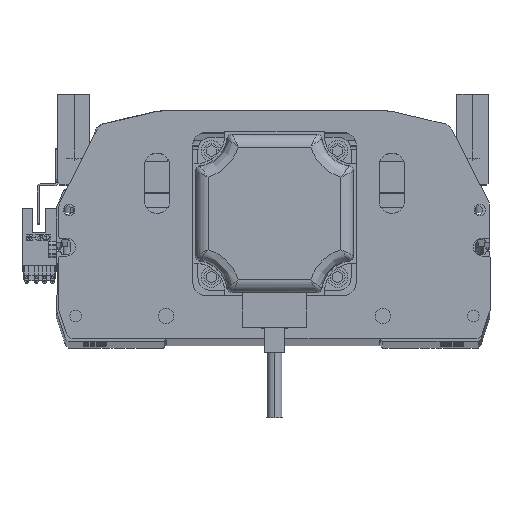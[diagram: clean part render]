
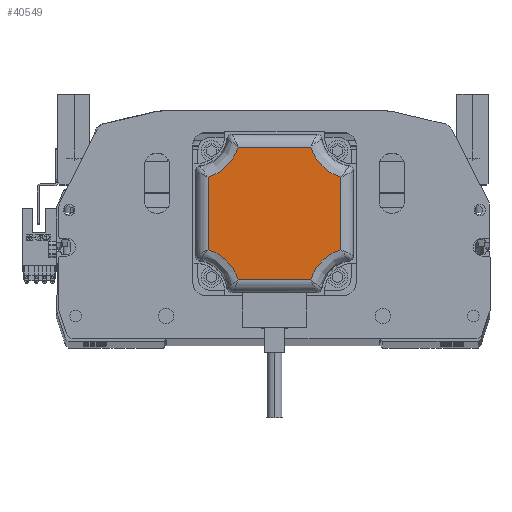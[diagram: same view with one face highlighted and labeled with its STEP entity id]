
A CAD part, top view. The second image highlights one B-rep face of the part: STEP entity #40549.
In plain terms, the highlighted planar face has unit normal (0, 0, 1) as drawn and (0, 0, -1) by its records, which use the part's own axes.
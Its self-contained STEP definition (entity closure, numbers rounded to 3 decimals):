
#861 = ORIENTED_EDGE ( 'NONE', *, *, #39830, .F. ) ;
#1659 = ORIENTED_EDGE ( 'NONE', *, *, #31790, .F. ) ;
#1771 = ORIENTED_EDGE ( 'NONE', *, *, #23347, .F. ) ;
#2437 = CARTESIAN_POINT ( 'NONE',  ( -15.953, -20.219, -116.5 ) ) ;
#4093 = FACE_OUTER_BOUND ( 'NONE', #6904, .T. ) ;
#4113 = VERTEX_POINT ( 'NONE', #30465 ) ;
#4664 = DIRECTION ( 'NONE',  ( 1., 0., 0. ) ) ;
#5213 = VERTEX_POINT ( 'NONE', #41778 ) ;
#5778 = AXIS2_PLACEMENT_3D ( 'NONE', #9007, #12671, #4664 ) ;
#6098 = CARTESIAN_POINT ( 'NONE',  ( -14.229, -26., -116.5 ) ) ;
#6428 = CARTESIAN_POINT ( 'NONE',  ( -14.229, -26., -116.5 ) ) ;
#6546 = VECTOR ( 'NONE', #40997, 1000. ) ;
#6773 = VERTEX_POINT ( 'NONE', #13209 ) ;
#6904 = EDGE_LOOP ( 'NONE', ( #49708, #14206, #22032, #38868, #1771, #861, #47578, #1659 ) ) ;
#7931 = CARTESIAN_POINT ( 'NONE',  ( 14.229, 26., -116.5 ) ) ;
#9007 = CARTESIAN_POINT ( 'NONE',  ( 0., 0., -116.5 ) ) ;
#9098 = VERTEX_POINT ( 'NONE', #16698 ) ;
#10259 = EDGE_CURVE ( 'NONE', #45467, #12916, #37691, .T. ) ;
#10601 = DIRECTION ( 'NONE',  ( 0., 1., 0. ) ) ;
#11247 = EDGE_CURVE ( 'NONE', #4113, #6773, #28122, .T. ) ;
#12671 = DIRECTION ( 'NONE',  ( 0., 0., 1. ) ) ;
#12916 = VERTEX_POINT ( 'NONE', #6098 ) ;
#13209 = CARTESIAN_POINT ( 'NONE',  ( -14.229, 26., -116.5 ) ) ;
#13278 = EDGE_CURVE ( 'NONE', #9098, #4113, #40917, .T. ) ;
#14206 = ORIENTED_EDGE ( 'NONE', *, *, #11247, .F. ) ;
#16404 = CARTESIAN_POINT ( 'NONE',  ( -15.953, 20.219, -116.5 ) ) ;
#16457 = CARTESIAN_POINT ( 'NONE',  ( 26., -14.229, -116.5 ) ) ;
#16698 = CARTESIAN_POINT ( 'NONE',  ( 26., 14.229, -116.5 ) ) ;
#16789 = CARTESIAN_POINT ( 'NONE',  ( -26., 15.5, -116.5 ) ) ;
#16840 = PLANE ( 'NONE',  #5778 ) ;
#17136 = DIRECTION ( 'NONE',  ( 0., -1., 0. ) ) ;
#19251 = CARTESIAN_POINT ( 'NONE',  ( 26., 14.229, -116.5 ) ) ;
#20530 = LINE ( 'NONE', #16789, #36691 ) ;
#20711 = VERTEX_POINT ( 'NONE', #43721 ) ;
#20735 = CARTESIAN_POINT ( 'NONE',  ( -26., 14.229, -116.5 ) ) ;
#22032 = ORIENTED_EDGE ( 'NONE', *, *, #13278, .F. ) ;
#23347 = EDGE_CURVE ( 'NONE', #5213, #51034, #40160, .T. ) ;
#24249 = CARTESIAN_POINT ( 'NONE',  ( 15.953, 20.219, -116.5 ) ) ;
#24419 = CARTESIAN_POINT ( 'NONE',  ( 15.953, -20.219, -116.5 ) ) ;
#27523 = VECTOR ( 'NONE', #39152, 1000. ) ;
#27928 =( BOUNDED_CURVE ( )  B_SPLINE_CURVE ( 3, ( #44748, #16404, #32534, #20735 ),
 .UNSPECIFIED., .F., .T. ) 
 B_SPLINE_CURVE_WITH_KNOTS ( ( 4, 4 ),
 ( 0., 1. ),
 .UNSPECIFIED. ) 
 CURVE ( )  GEOMETRIC_REPRESENTATION_ITEM ( )  RATIONAL_B_SPLINE_CURVE ( ( 1., 0.92, 0.92, 1. ) ) 
 REPRESENTATION_ITEM ( '' )  );
#28057 = CARTESIAN_POINT ( 'NONE',  ( -26., -14.229, -116.5 ) ) ;
#28122 = LINE ( 'NONE', #51208, #27523 ) ;
#28300 = LINE ( 'NONE', #28963, #6546 ) ;
#28963 = CARTESIAN_POINT ( 'NONE',  ( -15.5, -26., -116.5 ) ) ;
#30097 = CARTESIAN_POINT ( 'NONE',  ( 26., -15.5, -116.5 ) ) ;
#30465 = CARTESIAN_POINT ( 'NONE',  ( 14.229, 26., -116.5 ) ) ;
#31066 = CARTESIAN_POINT ( 'NONE',  ( 20.219, 15.953, -116.5 ) ) ;
#31092 = LINE ( 'NONE', #30097, #49204 ) ;
#31790 = EDGE_CURVE ( 'NONE', #20711, #45467, #20530, .T. ) ;
#32145 = CARTESIAN_POINT ( 'NONE',  ( 26., -14.229, -116.5 ) ) ;
#32534 = CARTESIAN_POINT ( 'NONE',  ( -20.219, 15.953, -116.5 ) ) ;
#35373 = EDGE_CURVE ( 'NONE', #6773, #20711, #27928, .T. ) ;
#36653 = EDGE_CURVE ( 'NONE', #51034, #9098, #31092, .T. ) ;
#36691 = VECTOR ( 'NONE', #17136, 1000. ) ;
#37691 =( BOUNDED_CURVE ( )  B_SPLINE_CURVE ( 3, ( #41753, #49967, #2437, #6428 ),
 .UNSPECIFIED., .F., .T. ) 
 B_SPLINE_CURVE_WITH_KNOTS ( ( 4, 4 ),
 ( 0., 1. ),
 .UNSPECIFIED. ) 
 CURVE ( )  GEOMETRIC_REPRESENTATION_ITEM ( )  RATIONAL_B_SPLINE_CURVE ( ( 1., 0.92, 0.92, 1. ) ) 
 REPRESENTATION_ITEM ( '' )  );
#38868 = ORIENTED_EDGE ( 'NONE', *, *, #36653, .F. ) ;
#39152 = DIRECTION ( 'NONE',  ( -1., 0., 0. ) ) ;
#39830 = EDGE_CURVE ( 'NONE', #12916, #5213, #28300, .T. ) ;
#40160 =( BOUNDED_CURVE ( )  B_SPLINE_CURVE ( 3, ( #47960, #24419, #40286, #16457 ),
 .UNSPECIFIED., .F., .F. ) 
 B_SPLINE_CURVE_WITH_KNOTS ( ( 4, 4 ),
 ( 0., 1. ),
 .UNSPECIFIED. ) 
 CURVE ( )  GEOMETRIC_REPRESENTATION_ITEM ( )  RATIONAL_B_SPLINE_CURVE ( ( 1., 0.92, 0.92, 1. ) ) 
 REPRESENTATION_ITEM ( '' )  );
#40286 = CARTESIAN_POINT ( 'NONE',  ( 20.219, -15.953, -116.5 ) ) ;
#40549 = ADVANCED_FACE ( 'NONE', ( #4093 ), #16840, .F. ) ;
#40917 =( BOUNDED_CURVE ( )  B_SPLINE_CURVE ( 3, ( #19251, #31066, #24249, #7931 ),
 .UNSPECIFIED., .F., .F. ) 
 B_SPLINE_CURVE_WITH_KNOTS ( ( 4, 4 ),
 ( 0., 1. ),
 .UNSPECIFIED. ) 
 CURVE ( )  GEOMETRIC_REPRESENTATION_ITEM ( )  RATIONAL_B_SPLINE_CURVE ( ( 1., 0.92, 0.92, 1. ) ) 
 REPRESENTATION_ITEM ( '' )  );
#40997 = DIRECTION ( 'NONE',  ( 1., 0., 0. ) ) ;
#41753 = CARTESIAN_POINT ( 'NONE',  ( -26., -14.229, -116.5 ) ) ;
#41778 = CARTESIAN_POINT ( 'NONE',  ( 14.229, -26., -116.5 ) ) ;
#43721 = CARTESIAN_POINT ( 'NONE',  ( -26., 14.229, -116.5 ) ) ;
#44748 = CARTESIAN_POINT ( 'NONE',  ( -14.229, 26., -116.5 ) ) ;
#45467 = VERTEX_POINT ( 'NONE', #28057 ) ;
#47578 = ORIENTED_EDGE ( 'NONE', *, *, #10259, .F. ) ;
#47960 = CARTESIAN_POINT ( 'NONE',  ( 14.229, -26., -116.5 ) ) ;
#49204 = VECTOR ( 'NONE', #10601, 1000. ) ;
#49708 = ORIENTED_EDGE ( 'NONE', *, *, #35373, .F. ) ;
#49967 = CARTESIAN_POINT ( 'NONE',  ( -20.219, -15.953, -116.5 ) ) ;
#51034 = VERTEX_POINT ( 'NONE', #32145 ) ;
#51208 = CARTESIAN_POINT ( 'NONE',  ( 15.5, 26., -116.5 ) ) ;
